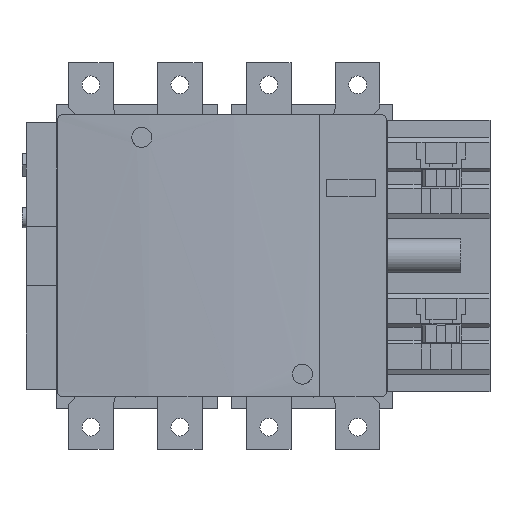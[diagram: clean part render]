
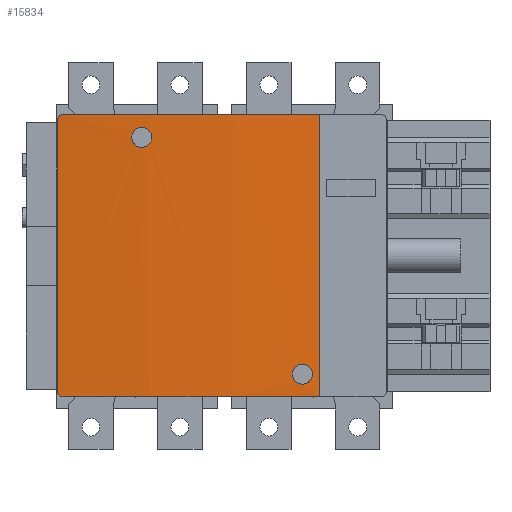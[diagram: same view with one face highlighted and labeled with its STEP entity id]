
A CAD part, top view. The second image highlights one B-rep face of the part: STEP entity #15834.
In plain terms, the highlighted cylindrical face has radius 600 mm (diameter 1200 mm), a partial arc.
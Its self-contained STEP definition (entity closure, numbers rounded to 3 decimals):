
#3966=CARTESIAN_POINT('',(18.,148.,178.));
#3967=CARTESIAN_POINT('',(18.,148.187,178.));
#3968=CARTESIAN_POINT('',(18.042,148.561,178.004));
#3969=CARTESIAN_POINT('',(18.229,149.095,178.023));
#3970=CARTESIAN_POINT('',(18.53,149.574,178.052));
#3971=CARTESIAN_POINT('',(18.93,149.972,178.091));
#3972=CARTESIAN_POINT('',(19.408,150.272,178.138));
#3973=CARTESIAN_POINT('',(19.94,150.458,178.189));
#3974=CARTESIAN_POINT('',(20.313,150.5,178.224));
#3975=CARTESIAN_POINT('',(20.5,150.5,178.242));
#3981=CARTESIAN_POINT('',(51.375,140.25,180.36));
#3982=CARTESIAN_POINT('',(51.375,140.685,180.36));
#3983=CARTESIAN_POINT('',(51.495,141.519,180.366));
#3984=CARTESIAN_POINT('',(52.031,142.709,180.388));
#3985=CARTESIAN_POINT('',(52.886,143.694,180.423));
#3986=CARTESIAN_POINT('',(53.968,144.395,180.466));
#3987=CARTESIAN_POINT('',(55.231,144.766,180.513));
#3988=CARTESIAN_POINT('',(56.515,144.767,180.559));
#3989=CARTESIAN_POINT('',(57.781,144.395,180.6));
#3990=CARTESIAN_POINT('',(58.862,143.697,180.634));
#3991=CARTESIAN_POINT('',(59.72,142.708,180.659));
#3992=CARTESIAN_POINT('',(60.254,141.519,180.674));
#3993=CARTESIAN_POINT('',(60.375,140.685,180.678));
#3994=CARTESIAN_POINT('',(60.375,140.25,180.678));
#3996=CARTESIAN_POINT('',(60.375,140.25,180.678));
#3997=CARTESIAN_POINT('',(60.375,139.815,180.678));
#3998=CARTESIAN_POINT('',(60.255,138.981,180.674));
#3999=CARTESIAN_POINT('',(59.718,137.79,180.659));
#4000=CARTESIAN_POINT('',(58.864,136.805,180.634));
#4001=CARTESIAN_POINT('',(57.781,136.105,180.6));
#4002=CARTESIAN_POINT('',(56.519,135.734,180.559));
#4003=CARTESIAN_POINT('',(55.234,135.733,180.513));
#4004=CARTESIAN_POINT('',(53.969,136.105,180.466));
#4005=CARTESIAN_POINT('',(52.888,136.804,180.423));
#4006=CARTESIAN_POINT('',(52.03,137.792,180.388));
#4007=CARTESIAN_POINT('',(51.496,138.981,180.366));
#4008=CARTESIAN_POINT('',(51.375,139.815,180.36));
#4009=CARTESIAN_POINT('',(51.375,140.25,180.36));
#4011=CARTESIAN_POINT('',(123.625,33.75,179.094));
#4012=CARTESIAN_POINT('',(123.625,34.184,179.094));
#4013=CARTESIAN_POINT('',(123.745,35.017,179.084));
#4014=CARTESIAN_POINT('',(124.28,36.208,179.042));
#4015=CARTESIAN_POINT('',(125.134,37.193,178.974));
#4016=CARTESIAN_POINT('',(126.217,37.894,178.886));
#4017=CARTESIAN_POINT('',(127.48,38.266,178.781));
#4018=CARTESIAN_POINT('',(128.767,38.267,178.671));
#4019=CARTESIAN_POINT('',(130.034,37.894,178.56));
#4020=CARTESIAN_POINT('',(131.115,37.194,178.463));
#4021=CARTESIAN_POINT('',(131.972,36.205,178.384));
#4022=CARTESIAN_POINT('',(132.505,35.017,178.335));
#4023=CARTESIAN_POINT('',(132.625,34.184,178.324));
#4024=CARTESIAN_POINT('',(132.625,33.75,178.324));
#4026=CARTESIAN_POINT('',(132.625,33.75,178.324));
#4027=CARTESIAN_POINT('',(132.625,33.316,178.324));
#4028=CARTESIAN_POINT('',(132.505,32.483,178.335));
#4029=CARTESIAN_POINT('',(131.97,31.293,178.385));
#4030=CARTESIAN_POINT('',(131.117,30.308,178.463));
#4031=CARTESIAN_POINT('',(130.034,29.606,178.56));
#4032=CARTESIAN_POINT('',(128.771,29.234,178.671));
#4033=CARTESIAN_POINT('',(127.484,29.233,178.781));
#4034=CARTESIAN_POINT('',(126.217,29.606,178.886));
#4035=CARTESIAN_POINT('',(125.136,30.305,178.974));
#4036=CARTESIAN_POINT('',(124.279,31.294,179.042));
#4037=CARTESIAN_POINT('',(123.746,32.482,179.084));
#4038=CARTESIAN_POINT('',(123.625,33.315,179.094));
#4039=CARTESIAN_POINT('',(123.625,33.75,179.094));
#4041=CARTESIAN_POINT('',(77.,150.5,-419.092));
#4042=DIRECTION('',(0.,-1.,0.));
#4043=DIRECTION('',(0.098,0.,0.995));
#4044=AXIS2_PLACEMENT_3D('',#4041,#4042,#4043);
#4080=CARTESIAN_POINT('',(77.,23.5,-419.092));
#4081=DIRECTION('',(0.,-1.,0.));
#4082=DIRECTION('',(0.098,0.,0.995));
#4083=AXIS2_PLACEMENT_3D('',#4080,#4081,#4082);
#4093=DIRECTION('',(0.,1.,0.));
#4094=VECTOR('',#4093,127.);
#4095=CARTESIAN_POINT('',(136.,23.5,178.));
#4096=LINE('',#4095,#4094);
#4145=CARTESIAN_POINT('',(20.5,23.5,178.242));
#4146=CARTESIAN_POINT('',(20.313,23.5,178.224));
#4147=CARTESIAN_POINT('',(19.94,23.542,178.189));
#4148=CARTESIAN_POINT('',(19.408,23.728,178.137));
#4149=CARTESIAN_POINT('',(18.929,24.028,178.091));
#4150=CARTESIAN_POINT('',(18.53,24.427,178.052));
#4151=CARTESIAN_POINT('',(18.229,24.906,178.023));
#4152=CARTESIAN_POINT('',(18.042,25.439,178.004));
#4153=CARTESIAN_POINT('',(18.,25.813,178.));
#4154=CARTESIAN_POINT('',(18.,26.,178.));
#4160=DIRECTION('',(0.,-1.,0.));
#4161=VECTOR('',#4160,122.);
#4162=CARTESIAN_POINT('',(18.,148.,178.));
#4163=LINE('',#4162,#4161);
#8999=VERTEX_POINT('',#3966);
#9000=VERTEX_POINT('',#3975);
#9001=CARTESIAN_POINT('',(18.,26.,178.));
#9002=VERTEX_POINT('',#9001);
#9003=VERTEX_POINT('',#4145);
#9004=CARTESIAN_POINT('',(136.,150.5,178.));
#9005=VERTEX_POINT('',#9004);
#9006=CARTESIAN_POINT('',(136.,23.5,178.));
#9007=VERTEX_POINT('',#9006);
#9310=VERTEX_POINT('',#3981);
#9311=VERTEX_POINT('',#3994);
#9312=VERTEX_POINT('',#4011);
#9313=VERTEX_POINT('',#4024);
#15804=CARTESIAN_POINT('',(77.,23.5,-419.092));
#15805=DIRECTION('',(0.,-1.,0.));
#15806=DIRECTION('',(1.,0.,0.));
#15807=AXIS2_PLACEMENT_3D('',#15804,#15805,#15806);
#15808=CYLINDRICAL_SURFACE('',#15807,600.);
#15809=ORIENTED_EDGE('',*,*,#15794,.T.);
#15811=ORIENTED_EDGE('',*,*,#15810,.F.);
#15813=ORIENTED_EDGE('',*,*,#15812,.F.);
#15815=ORIENTED_EDGE('',*,*,#15814,.T.);
#15817=ORIENTED_EDGE('',*,*,#15816,.T.);
#15819=ORIENTED_EDGE('',*,*,#15818,.F.);
#15820=EDGE_LOOP('',(#15809,#15811,#15813,#15815,#15817,#15819));
#15821=FACE_OUTER_BOUND('',#15820,.F.);
#15823=ORIENTED_EDGE('',*,*,#15822,.F.);
#15825=ORIENTED_EDGE('',*,*,#15824,.F.);
#15826=EDGE_LOOP('',(#15823,#15825));
#15827=FACE_BOUND('',#15826,.F.);
#15829=ORIENTED_EDGE('',*,*,#15828,.F.);
#15831=ORIENTED_EDGE('',*,*,#15830,.F.);
#15832=EDGE_LOOP('',(#15829,#15831));
#15833=FACE_BOUND('',#15832,.F.);
#15834=ADVANCED_FACE('',(#15821,#15827,#15833),#15808,.T.);
#3976=B_SPLINE_CURVE_WITH_KNOTS('',3,(#3966,#3967,#3968,#3969,#3970,#3971,#3972,
#3973,#3974,#3975),.UNSPECIFIED.,.F.,.F.,(4,1,1,1,1,1,1,4),(0.,
0.143,0.286,0.429,0.571,
0.714,0.857,1.),.UNSPECIFIED.);
#3995=B_SPLINE_CURVE_WITH_KNOTS('',3,(#3981,#3982,#3983,#3984,#3985,#3986,#3987,
#3988,#3989,#3990,#3991,#3992,#3993,#3994),.UNSPECIFIED.,.F.,.F.,(4,1,1,1,1,1,1,
1,1,1,1,4),(0.,0.091,0.182,0.273,
0.364,0.455,0.545,0.636,
0.727,0.818,0.909,1.),.UNSPECIFIED.);
#4010=B_SPLINE_CURVE_WITH_KNOTS('',3,(#3996,#3997,#3998,#3999,#4000,#4001,#4002,
#4003,#4004,#4005,#4006,#4007,#4008,#4009),.UNSPECIFIED.,.F.,.F.,(4,1,1,1,1,1,1,
1,1,1,1,4),(0.,0.091,0.182,0.273,
0.364,0.455,0.545,0.636,
0.727,0.818,0.909,1.),.UNSPECIFIED.);
#4025=B_SPLINE_CURVE_WITH_KNOTS('',3,(#4011,#4012,#4013,#4014,#4015,#4016,#4017,
#4018,#4019,#4020,#4021,#4022,#4023,#4024),.UNSPECIFIED.,.F.,.F.,(4,1,1,1,1,1,1,
1,1,1,1,4),(0.,0.091,0.182,0.273,
0.364,0.455,0.545,0.636,
0.727,0.818,0.909,1.),.UNSPECIFIED.);
#4040=B_SPLINE_CURVE_WITH_KNOTS('',3,(#4026,#4027,#4028,#4029,#4030,#4031,#4032,
#4033,#4034,#4035,#4036,#4037,#4038,#4039),.UNSPECIFIED.,.F.,.F.,(4,1,1,1,1,1,1,
1,1,1,1,4),(0.,0.091,0.182,0.273,
0.364,0.455,0.545,0.636,
0.727,0.818,0.909,1.),.UNSPECIFIED.);
#4045=CIRCLE('',#4044,600.);
#4084=CIRCLE('',#4083,600.);
#4155=B_SPLINE_CURVE_WITH_KNOTS('',3,(#4145,#4146,#4147,#4148,#4149,#4150,#4151,
#4152,#4153,#4154),.UNSPECIFIED.,.F.,.F.,(4,1,1,1,1,1,1,4),(0.,
0.143,0.286,0.429,0.571,
0.714,0.857,1.),.UNSPECIFIED.);
#15794=EDGE_CURVE('',#8999,#9000,#3976,.T.);
#15810=EDGE_CURVE('',#9005,#9000,#4045,.T.);
#15812=EDGE_CURVE('',#9007,#9005,#4096,.T.);
#15814=EDGE_CURVE('',#9007,#9003,#4084,.T.);
#15816=EDGE_CURVE('',#9003,#9002,#4155,.T.);
#15818=EDGE_CURVE('',#8999,#9002,#4163,.T.);
#15822=EDGE_CURVE('',#9310,#9311,#3995,.T.);
#15824=EDGE_CURVE('',#9311,#9310,#4010,.T.);
#15828=EDGE_CURVE('',#9312,#9313,#4025,.T.);
#15830=EDGE_CURVE('',#9313,#9312,#4040,.T.);
